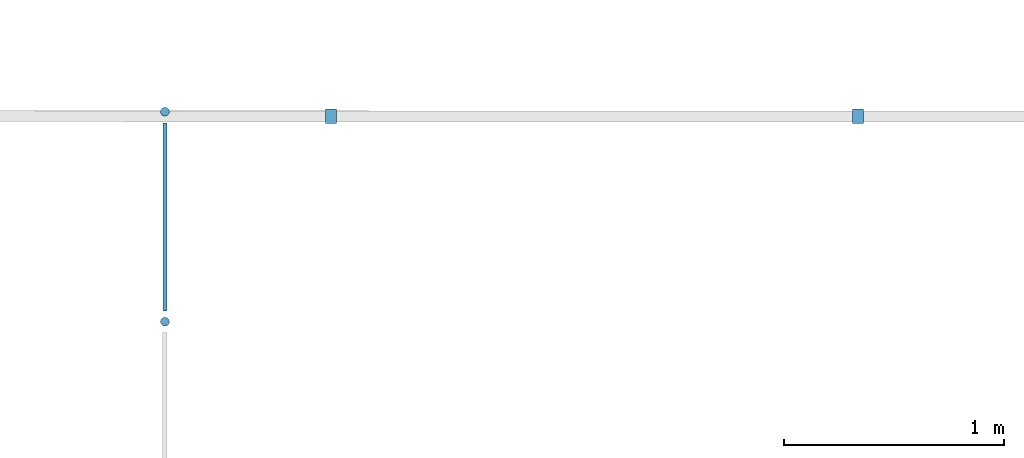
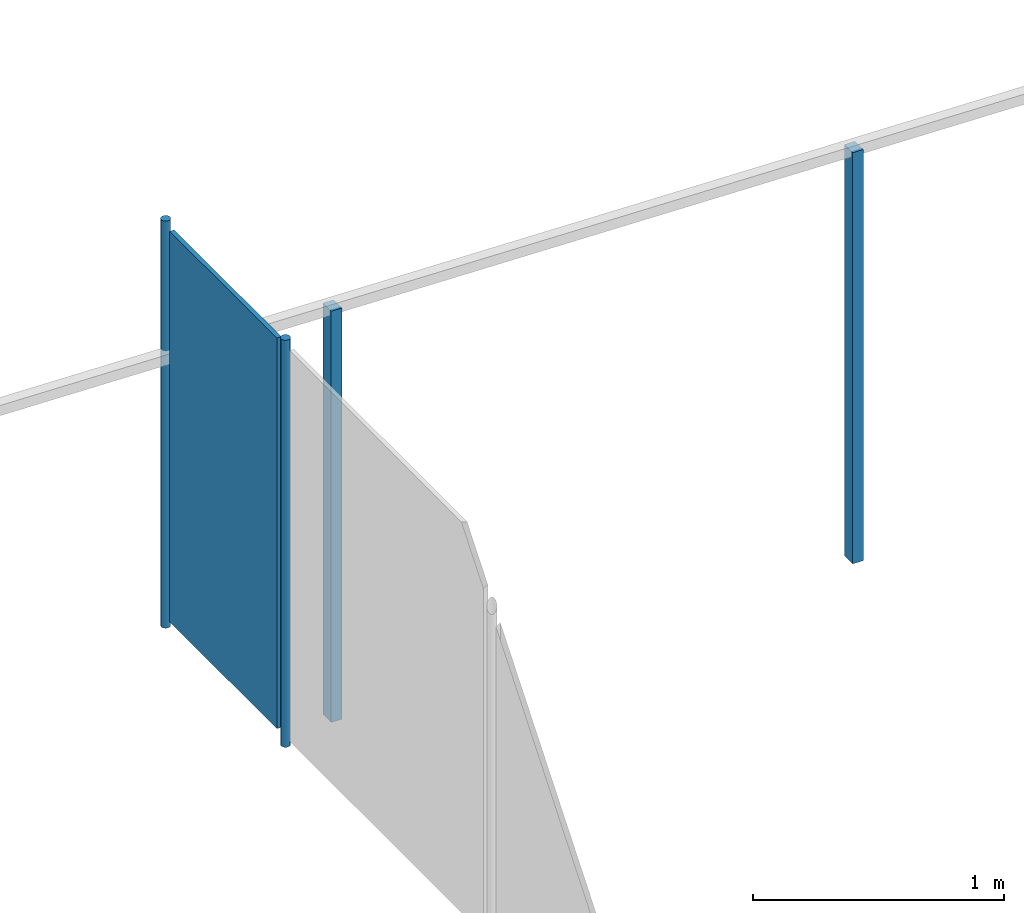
# One storey, part 66 of 91: 5 building element parts, 2 elements without a shape of their own.
"""IFC2X3 building model written with IfcOpenShell, lengths in metres."""

from ifc_helpers import new_model, entity, si_unit, converted_unit, derived_unit, money_unit, direction, frame, origin_with_axes, place, context, subcontext, project, spatial, faceted_brep, material, type_object, element, aggregate, save


model = new_model("IFC2X3")

# Units and contexts
model_context = context("Model", 3, precision=1e-05, world=origin_with_axes(), true_north=direction((0.0, 1.0)))
body_context = subcontext(model_context, "Body", "Model", "MODEL_VIEW")
ifc_project = project(units=[si_unit("LENGTHUNIT", "METRE"), si_unit("AREAUNIT", "SQUARE_METRE"), si_unit("VOLUMEUNIT", "CUBIC_METRE"), converted_unit("PLANEANGLEUNIT", "DEGREE", entity("IfcPlaneAngleMeasure", 0.0174532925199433), si_unit("PLANEANGLEUNIT", "RADIAN"), dimensions=[0, 0, 0, 0, 0, 0, 0]), money_unit("EUR"), converted_unit("TIMEUNIT", "Year", entity("IfcTimeMeasure", 31557600.0), si_unit("TIMEUNIT", "SECOND"), dimensions=[0, 0, 1, 0, 0, 0, 0]), si_unit("MASSUNIT", "GRAM", prefix="KILO"), si_unit("THERMODYNAMICTEMPERATUREUNIT", "DEGREE_CELSIUS"), si_unit("LUMINOUSINTENSITYUNIT", "LUMEN"), si_unit("ENERGYUNIT", "JOULE", prefix="MEGA"), derived_unit("THERMALCONDUCTANCEUNIT", [(si_unit("POWERUNIT", "WATT"), 1), (si_unit("LENGTHUNIT", "METRE"), -1), (si_unit("THERMODYNAMICTEMPERATUREUNIT", "KELVIN"), -1)]), derived_unit("SPECIFICHEATCAPACITYUNIT", [(si_unit("ENERGYUNIT", "JOULE"), 1), (si_unit("MASSUNIT", "GRAM", prefix="KILO"), -1), (si_unit("THERMODYNAMICTEMPERATUREUNIT", "KELVIN"), -1)]), derived_unit("MASSDENSITYUNIT", [(si_unit("MASSUNIT", "GRAM", prefix="KILO"), 1), (si_unit("VOLUMEUNIT", "CUBIC_METRE"), -1)])], contexts=[model_context])

# Site, building, storey
site_placement = place(None, origin_with_axes())
site = spatial("IfcSite", under=ifc_project, at=site_placement, Name="Site", CompositionType="ELEMENT")
building_placement = place(site_placement, origin_with_axes())
building = spatial("IfcBuilding", under=site, at=building_placement, Name="Bâtiment", CompositionType="ELEMENT")
storey_placement = place(building_placement, origin_with_axes())
storey = spatial("IfcBuildingStorey", under=building, at=storey_placement, Name="RDC", CompositionType="ELEMENT", Elevation=0.0)

# Proxy, building element parts
building_element_proxy_type = type_object("IfcBuildingElementProxyType", Name="Type de garde-corps", PredefinedType="NOTDEFINED")
proxy_1_placement = place(storey_placement, frame((79.63337255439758, 3.614023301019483, -2.37161404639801), z_axis=(0.0, 0.0, 1.0), x_axis=(1.0, 0.0, 0.0)))
proxy_1 = element("IfcBuildingElementProxy", 1, at=proxy_1_placement, inside=storey, type_object=building_element_proxy_type, Name="RAMPE-004")
ifc_material_1 = material(Name="Acier Galva")
building_element_part_1_placement = place(proxy_1_placement, origin_with_axes())
building_element_part_1 = element("IfcBuildingElementPart", 2, at=building_element_part_1_placement, material=ifc_material_1, Name="Acier Galva", context=body_context, shape_type="Brep", body=[
    faceted_brep([(-27.46871535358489, 3.417902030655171, 1.60720173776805), (-27.46872757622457, 3.351902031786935, 1.60720173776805), (-27.46872757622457, 3.351902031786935, 3.60720173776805), (-27.46871535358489, 3.41790203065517, 3.60720173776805), (-27.41871535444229, 3.417892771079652, 1.605773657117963), (-27.41872757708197, 3.351892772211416, 1.605773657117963), (-27.41872757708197, 3.351892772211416, 3.605773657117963), (-27.41871535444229, 3.417892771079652, 3.605773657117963)], [[[0, 1, 2, 3]], [[0, 4, 5, 1]], [[1, 5, 6, 2]], [[3, 2, 6, 7]], [[4, 0, 3, 7]], [[5, 4, 7, 6]]]),
])
building_element_part_2_placement = place(proxy_1_placement, origin_with_axes())
building_element_part_2 = element("IfcBuildingElementPart", 3, at=building_element_part_2_placement, material=ifc_material_1, Name="Acier Galva", context=body_context, shape_type="Brep", body=[
    faceted_brep([(-29.86737451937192, 3.41834624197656, 1.67571131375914), (-29.8673867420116, 3.352346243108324, 1.67571131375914), (-29.8673867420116, 3.352346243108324, 3.67571131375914), (-29.86737451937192, 3.418346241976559, 3.67571131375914), (-29.81737452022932, 3.418336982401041, 1.674283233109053), (-29.817386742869, 3.352336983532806, 1.674283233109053), (-29.817386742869, 3.352336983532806, 3.674283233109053), (-29.81737452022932, 3.418336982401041, 3.674283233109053)], [[[0, 1, 2, 3]], [[0, 4, 5, 1]], [[1, 5, 6, 2]], [[3, 2, 6, 7]], [[4, 0, 3, 7]], [[5, 4, 7, 6]]]),
])
aggregate(proxy_1, [building_element_part_1, building_element_part_2])

proxy_2_placement = place(storey_placement, frame((48.97569491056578, 1.114200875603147, 0.0), z_axis=(0.0, 0.0, 1.0), x_axis=(1.0, 0.0, 0.0)))
proxy_2 = element("IfcBuildingElementProxy", 4, at=proxy_2_placement, inside=storey, type_object=building_element_proxy_type, Name="RAMPE-003")
ifc_material_2 = material(Name="Métal - Zinc")
building_element_part_3_placement = place(proxy_2_placement, origin_with_axes())
building_element_part_3 = element("IfcBuildingElementPart", 5, at=building_element_part_3_placement, material=ifc_material_2, Name="Métal - Zinc", context=body_context, shape_type="Brep", body=[
    faceted_brep([(0.05962083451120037, 4.929787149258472, 0.0), (0.06309438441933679, 4.930084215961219, 0.0), (0.06309438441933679, 4.930084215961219, 1.98), (0.05962083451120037, 4.929787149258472, 1.98), (0.05614847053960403, 4.93009777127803, 0.0), (0.05278279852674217, 4.931006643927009, 0.0), (0.04962608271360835, 4.932486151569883, 0.0), (0.04677423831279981, 4.93449134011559, 0.0), (0.04431391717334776, 4.936961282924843, 0.0), (0.04231987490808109, 4.939820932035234, 0.0), (0.04085269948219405, 4.942983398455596, 0.0), (0.03995697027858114, 4.946352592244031, 0.0), (0.03965990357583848, 4.949826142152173, 0.0), (0.03997052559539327, 4.953298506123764, 0.0), (0.04087939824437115, 4.956664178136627, 0.0), (0.042358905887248, 4.959820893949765, 0.0), (0.0443640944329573, 4.962672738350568, 0.0), (0.04683403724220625, 4.965133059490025, 0.0), (0.04969368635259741, 4.967127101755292, 0.0), (0.05285615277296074, 4.968594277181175, 0.0), (0.05622534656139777, 4.969490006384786, 0.0), (0.05969889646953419, 4.969787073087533, 0.0), (0.06317126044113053, 4.969476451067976, 0.0), (0.06653693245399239, 4.968567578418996, 0.0), (0.06969364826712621, 4.967088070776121, 0.0), (0.07254549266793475, 4.965082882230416, 0.0), (0.0750058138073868, 4.962612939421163, 0.0), (0.07699985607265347, 4.959753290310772, 0.0), (0.07846703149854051, 4.95659082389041, 0.0), (0.07936276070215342, 4.953221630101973, 0.0), (0.07965982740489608, 4.949748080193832, 0.0), (0.07934920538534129, 4.946275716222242, 0.0), (0.07844033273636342, 4.942910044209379, 0.0), (0.07696082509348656, 4.939753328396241, 0.0), (0.07495563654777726, 4.936901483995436, 0.0), (0.07248569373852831, 4.934441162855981, 0.0), (0.06962604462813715, 4.932447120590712, 0.0), (0.06646357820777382, 4.930979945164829, 0.0), (0.06646357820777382, 4.930979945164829, 1.98), (0.06962604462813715, 4.932447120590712, 1.98), (0.07248569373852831, 4.934441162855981, 1.98), (0.07495563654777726, 4.936901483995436, 1.98), (0.07696082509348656, 4.939753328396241, 1.98), (0.07844033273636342, 4.942910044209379, 1.98), (0.07934920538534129, 4.946275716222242, 1.98), (0.07965982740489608, 4.949748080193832, 1.98), (0.07936276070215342, 4.953221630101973, 1.98), (0.07846703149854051, 4.95659082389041, 1.98), (0.07699985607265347, 4.959753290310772, 1.98), (0.0750058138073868, 4.962612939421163, 1.98), (0.07254549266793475, 4.965082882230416, 1.98), (0.06969364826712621, 4.967088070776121, 1.98), (0.06653693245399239, 4.968567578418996, 1.98), (0.06317126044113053, 4.969476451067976, 1.98), (0.05969889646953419, 4.969787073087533, 1.98), (0.05622534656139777, 4.969490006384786, 1.98), (0.05285615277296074, 4.968594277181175, 1.98), (0.04969368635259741, 4.967127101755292, 1.98), (0.04683403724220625, 4.965133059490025, 1.98), (0.0443640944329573, 4.962672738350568, 1.98), (0.042358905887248, 4.959820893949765, 1.98), (0.04087939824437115, 4.956664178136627, 1.98), (0.03997052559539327, 4.953298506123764, 1.98), (0.03965990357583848, 4.949826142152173, 1.98), (0.03995697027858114, 4.946352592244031, 1.98), (0.04085269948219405, 4.942983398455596, 1.98), (0.04231987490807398, 4.939820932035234, 1.98), (0.04431391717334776, 4.936961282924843, 1.98), (0.04677423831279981, 4.93449134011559, 1.98), (0.04962608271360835, 4.932486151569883, 1.98), (0.05278279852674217, 4.931006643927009, 1.98), (0.05614847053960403, 4.93009777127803, 1.98)], [[[0, 1, 2, 3]], [[0, 4, 5, 6, 7, 8, 9, 10, 11, 12, 13, 14, 15, 16, 17, 18, 19, 20, 21, 22, 23, 24, 25, 26, 27, 28, 29, 30, 31, 32, 33, 34, 35, 36, 37, 1]], [[1, 37, 38, 2]], [[3, 2, 38, 39, 40, 41, 42, 43, 44, 45, 46, 47, 48, 49, 50, 51, 52, 53, 54, 55, 56, 57, 58, 59, 60, 61, 62, 63, 64, 65, 66, 67, 68, 69, 70, 71]], [[4, 0, 3, 71]], [[5, 4, 71, 70]], [[6, 5, 70, 69]], [[7, 6, 69, 68]], [[8, 7, 68, 67]], [[9, 8, 67, 66]], [[10, 9, 66, 65]], [[11, 10, 65, 64]], [[12, 11, 64, 63]], [[13, 12, 63, 62]], [[14, 13, 62, 61]], [[15, 14, 61, 60]], [[16, 15, 60, 59]], [[17, 16, 59, 58]], [[18, 17, 58, 57]], [[19, 18, 57, 56]], [[20, 19, 56, 55]], [[21, 20, 55, 54]], [[22, 21, 54, 53]], [[23, 22, 53, 52]], [[24, 23, 52, 51]], [[25, 24, 51, 50]], [[26, 25, 50, 49]], [[27, 26, 49, 48]], [[28, 27, 48, 47]], [[29, 28, 47, 46]], [[30, 29, 46, 45]], [[31, 30, 45, 44]], [[32, 31, 44, 43]], [[33, 32, 43, 42]], [[34, 33, 42, 41]], [[35, 34, 41, 40]], [[36, 35, 40, 39]], [[37, 36, 39, 38]]]),
])
building_element_part_4_placement = place(proxy_2_placement, origin_with_axes())
building_element_part_4 = element("IfcBuildingElementPart", 6, at=building_element_part_4_placement, material=ifc_material_2, Name="Métal - Zinc", context=body_context, shape_type="Brep", body=[
    faceted_brep([(0.05965986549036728, 5.885313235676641, 0.0), (0.06313282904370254, 5.885617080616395, 0.0), (0.06313282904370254, 5.885617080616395, 1.98), (0.05965986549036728, 5.885313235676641, 1.98), (0.05618690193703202, 5.885617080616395, 0.0), (0.05281946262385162, 5.886519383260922, 0.0), (0.04965986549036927, 5.887992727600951, 0.0), (0.04680411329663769, 5.88999234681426, 0.0), (0.04433897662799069, 5.892457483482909, 0.0), (0.04233935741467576, 5.895313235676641, 0.0), (0.04086601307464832, 5.898472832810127, 0.0), (0.03996371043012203, 5.901840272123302, 0.0), (0.03965986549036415, 5.90531323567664, 0.0), (0.03996371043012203, 5.908786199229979, 0.0), (0.04086601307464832, 5.912153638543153, 0.0), (0.04233935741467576, 5.91531323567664, 0.0), (0.04433897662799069, 5.91816898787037, 0.0), (0.04680411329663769, 5.920634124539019, 0.0), (0.04965986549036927, 5.922633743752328, 0.0), (0.05281946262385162, 5.924107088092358, 0.0), (0.05618690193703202, 5.925009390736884, 0.0), (0.05965986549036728, 5.92531323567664, 0.0), (0.06313282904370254, 5.925009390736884, 0.0), (0.06650026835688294, 5.924107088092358, 0.0), (0.06965986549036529, 5.922633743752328, 0.0), (0.07251561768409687, 5.920634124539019, 0.0), (0.07498075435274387, 5.91816898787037, 0.0), (0.0769803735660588, 5.91531323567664, 0.0), (0.07845371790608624, 5.912153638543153, 0.0), (0.07935602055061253, 5.908786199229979, 0.0), (0.07965986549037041, 5.90531323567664, 0.0), (0.07935602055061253, 5.901840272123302, 0.0), (0.07845371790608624, 5.898472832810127, 0.0), (0.0769803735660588, 5.895313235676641, 0.0), (0.07498075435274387, 5.892457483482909, 0.0), (0.07251561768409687, 5.88999234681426, 0.0), (0.06965986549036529, 5.887992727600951, 0.0), (0.06650026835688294, 5.886519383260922, 0.0), (0.06650026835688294, 5.886519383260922, 1.98), (0.06965986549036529, 5.887992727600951, 1.98), (0.07251561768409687, 5.88999234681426, 1.98), (0.07498075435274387, 5.892457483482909, 1.98), (0.0769803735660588, 5.895313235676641, 1.98), (0.07845371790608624, 5.898472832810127, 1.98), (0.07935602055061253, 5.901840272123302, 1.98), (0.07965986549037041, 5.90531323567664, 1.98), (0.07935602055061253, 5.908786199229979, 1.98), (0.07845371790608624, 5.912153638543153, 1.98), (0.0769803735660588, 5.91531323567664, 1.98), (0.07498075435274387, 5.91816898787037, 1.98), (0.07251561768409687, 5.920634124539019, 1.98), (0.06965986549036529, 5.922633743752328, 1.98), (0.06650026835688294, 5.924107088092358, 1.98), (0.06313282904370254, 5.925009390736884, 1.98), (0.05965986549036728, 5.92531323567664, 1.98), (0.05618690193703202, 5.925009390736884, 1.98), (0.05281946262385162, 5.924107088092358, 1.98), (0.04965986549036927, 5.922633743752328, 1.98), (0.04680411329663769, 5.920634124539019, 1.98), (0.04433897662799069, 5.91816898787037, 1.98), (0.04233935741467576, 5.91531323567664, 1.98), (0.04086601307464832, 5.912153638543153, 1.98), (0.03996371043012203, 5.908786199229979, 1.98), (0.03965986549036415, 5.90531323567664, 1.98), (0.03996371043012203, 5.901840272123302, 1.98), (0.04086601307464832, 5.898472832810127, 1.98), (0.04233935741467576, 5.895313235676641, 1.98), (0.04433897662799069, 5.892457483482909, 1.98), (0.04680411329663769, 5.88999234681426, 1.98), (0.04965986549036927, 5.887992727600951, 1.98), (0.05281946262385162, 5.886519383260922, 1.98), (0.05618690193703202, 5.885617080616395, 1.98)], [[[0, 1, 2, 3]], [[0, 4, 5, 6, 7, 8, 9, 10, 11, 12, 13, 14, 15, 16, 17, 18, 19, 20, 21, 22, 23, 24, 25, 26, 27, 28, 29, 30, 31, 32, 33, 34, 35, 36, 37, 1]], [[1, 37, 38, 2]], [[3, 2, 38, 39, 40, 41, 42, 43, 44, 45, 46, 47, 48, 49, 50, 51, 52, 53, 54, 55, 56, 57, 58, 59, 60, 61, 62, 63, 64, 65, 66, 67, 68, 69, 70, 71]], [[4, 0, 3, 71]], [[5, 4, 71, 70]], [[6, 5, 70, 69]], [[7, 6, 69, 68]], [[8, 7, 68, 67]], [[9, 8, 67, 66]], [[10, 9, 66, 65]], [[11, 10, 65, 64]], [[12, 11, 64, 63]], [[13, 12, 63, 62]], [[14, 13, 62, 61]], [[15, 14, 61, 60]], [[16, 15, 60, 59]], [[17, 16, 59, 58]], [[18, 17, 58, 57]], [[19, 18, 57, 56]], [[20, 19, 56, 55]], [[21, 20, 55, 54]], [[22, 21, 54, 53]], [[23, 22, 53, 52]], [[24, 23, 52, 51]], [[25, 24, 51, 50]], [[26, 25, 50, 49]], [[27, 26, 49, 48]], [[28, 27, 48, 47]], [[29, 28, 47, 46]], [[30, 29, 46, 45]], [[31, 30, 45, 44]], [[32, 31, 44, 43]], [[33, 32, 43, 42]], [[34, 33, 42, 41]], [[35, 34, 41, 40]], [[36, 35, 40, 39]], [[37, 36, 39, 38]]]),
])
ifc_material_3 = material(Name="*MAILLE jacob")
building_element_part_5_placement = place(proxy_2_placement, origin_with_axes())
building_element_part_5 = element("IfcBuildingElementPart", 7, at=building_element_part_5_placement, material=ifc_material_3, Name="*MAILLE jacob", context=body_context, shape_type="Brep", body=[
    faceted_brep([(0.04965986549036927, 5.85531323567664, 0.05), (0.04965986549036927, 4.999787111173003, 0.05), (0.04965986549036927, 4.999787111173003, 1.95), (0.04965986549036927, 5.85531323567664, 1.95), (0.06965986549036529, 4.999787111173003, 0.05), (0.06965986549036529, 5.85531323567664, 0.05), (0.06965986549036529, 4.999787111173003, 1.95), (0.06965986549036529, 5.85531323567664, 1.95)], [[[0, 1, 2, 3]], [[4, 1, 0, 5]], [[6, 2, 1, 4]], [[3, 2, 6, 7]], [[0, 3, 7, 5]], [[6, 4, 5, 7]]]),
])
aggregate(proxy_2, [building_element_part_3, building_element_part_4, building_element_part_5])

save(model, "model.ifc")
